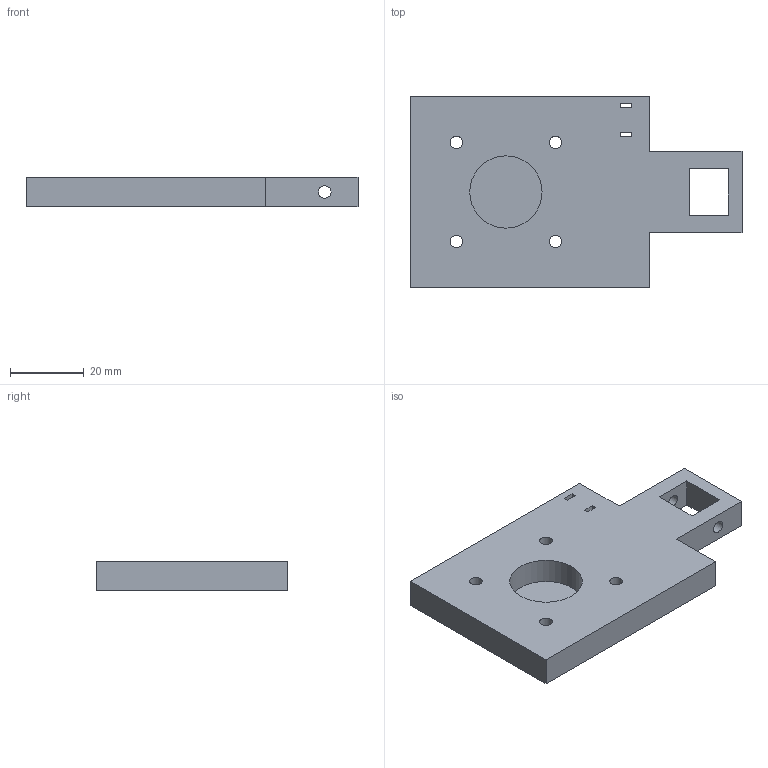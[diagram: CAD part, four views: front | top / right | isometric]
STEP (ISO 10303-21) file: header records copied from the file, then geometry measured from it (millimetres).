
FILE_DESCRIPTION(('Open CASCADE Model'),'2;1');
FILE_NAME('Open CASCADE Shape Model','2026-11-12T16:33:14',('Author'),( 'Open CASCADE'),'Open CASCADE STEP processor 7.9','Open CASCADE 7.9' ,'Unknown');
FILE_SCHEMA(('AUTOMOTIVE_DESIGN { 1 0 10303 214 1 1 1 1 }'));
Length unit declared in the file: millimetre
Products named in the file (1): Open CASCADE STEP translator 7.9 4
Bounding box: 90 x 52 x 8 mm (x, y, z)
Volume: 27826 mm3; surface area: 11120.4 mm2
Topology: 1 solids, 1 shells, 30 faces, 81 edges, 54 vertices
Faces by surface type: plane 23, cylinder 7
Full cylindrical faces by diameter (mm): 3.4 x6, 19.6 x1
Entity records: 2038 total; most frequent: CARTESIAN_POINT 328, DIRECTION 319, LINE 215, VECTOR 215, ORIENTED_EDGE 162, PCURVE 162, DEFINITIONAL_REPRESENTATION 162, EDGE_CURVE 81
